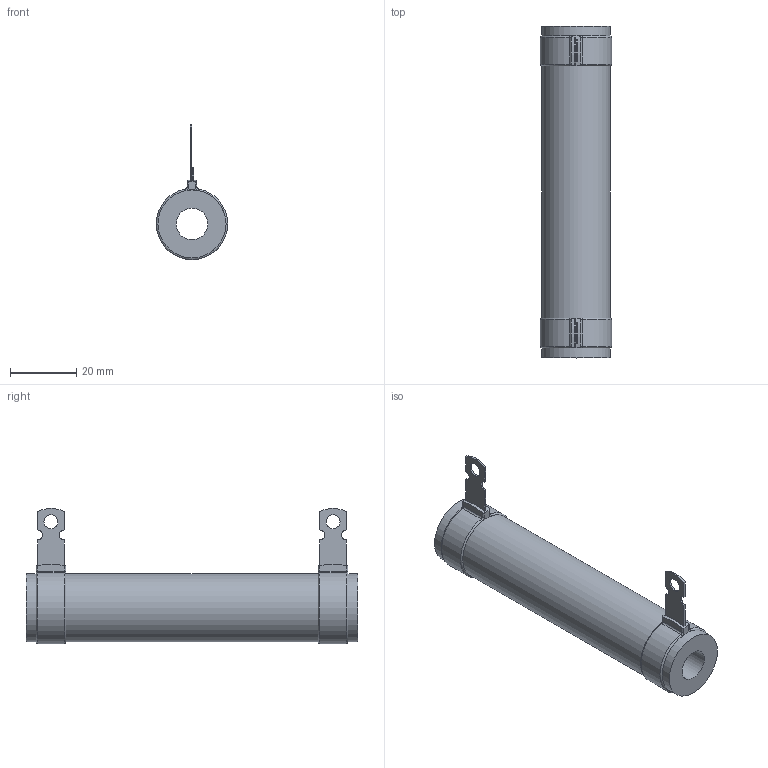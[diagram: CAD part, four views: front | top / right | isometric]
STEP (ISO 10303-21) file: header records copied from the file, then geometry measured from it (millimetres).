
FILE_DESCRIPTION(/* description */ (''),/* implementation_level */ '2;1');
FILE_NAME(/* name */ 'C:\_Vault\Dati\CATALOGO\RCA-RSA\25-1000\CA065.stp',/* time_stamp */ '2014-01-22T14:49:36+01:00',/* author */ ('stefano'),/* organization */ (''),/* preprocessor_version */ 'ST-DEVELOPER v15.2',/* originating_system */ 'Autodesk Inventor 2014',/* authorisation */ '');
FILE_SCHEMA (('AUTOMOTIVE_DESIGN { 1 0 10303 214 3 1 1 }'));
Length unit declared in the file: millimetre
Products named in the file (1): CA065
Bounding box: 21.5 x 100 x 40.75 mm (x, y, z)
Volume: 26758.8 mm3; surface area: 10777.3 mm2
Topology: 1 solids, 1 shells, 77 faces, 184 edges, 114 vertices
Faces by surface type: plane 35, cylinder 30, torus 12
Full cylindrical faces by diameter (mm): 4.2 x2, 9.5 x1, 20.5 x3
Entity records: 2371 total; most frequent: CARTESIAN_POINT 438, DIRECTION 406, ORIENTED_EDGE 352, EDGE_CURVE 176, AXIS2_PLACEMENT_3D 160, VERTEX_POINT 112, EDGE_LOOP 94, LINE 86
